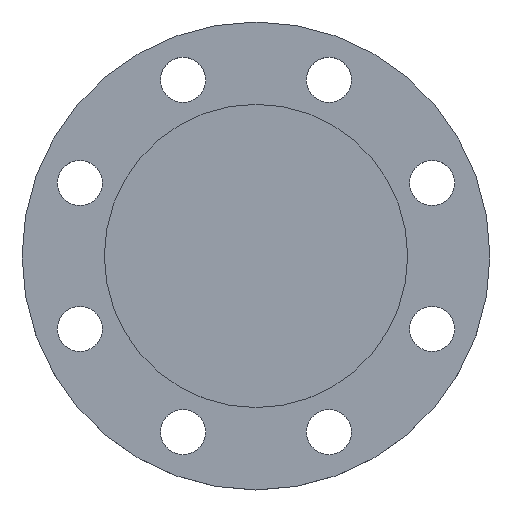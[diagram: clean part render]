
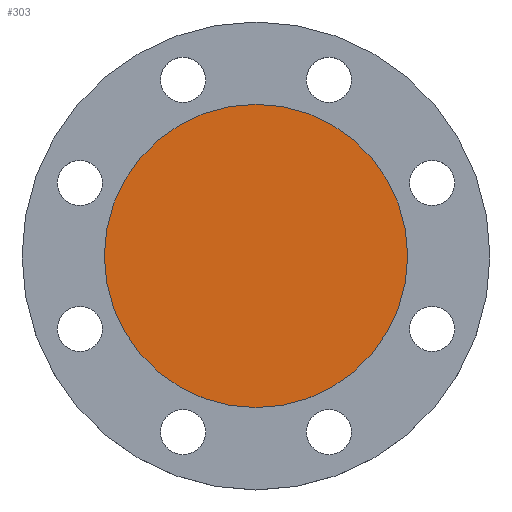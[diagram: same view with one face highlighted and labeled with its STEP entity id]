
A CAD part, top view. The second image highlights one B-rep face of the part: STEP entity #303.
In plain terms, the highlighted planar face has unit normal (0, 0, 1).
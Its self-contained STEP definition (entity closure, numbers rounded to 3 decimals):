
#22 = CARTESIAN_POINT ( 'NONE',  ( -87.5, 0., 0. ) ) ;
#29 = AXIS2_PLACEMENT_3D ( 'NONE', #265, #507, #773 ) ;
#58 = DIRECTION ( 'NONE',  ( 0., 0., -1. ) ) ;
#131 = CARTESIAN_POINT ( 'NONE',  ( 0., 0., 0. ) ) ;
#132 = CARTESIAN_POINT ( 'NONE',  ( 87.5, 0., 0. ) ) ;
#161 = CIRCLE ( 'NONE', #611, 87.5 ) ;
#265 = CARTESIAN_POINT ( 'NONE',  ( 0., 0., 0. ) ) ;
#303 = ADVANCED_FACE ( 'NONE', ( #437 ), #689, .T. ) ;
#305 = DIRECTION ( 'NONE',  ( -1., 0., 0. ) ) ;
#362 = EDGE_CURVE ( 'NONE', #623, #440, #161, .T. ) ;
#382 = CIRCLE ( 'NONE', #29, 87.5 ) ;
#412 = ORIENTED_EDGE ( 'NONE', *, *, #362, .F. ) ;
#437 = FACE_OUTER_BOUND ( 'NONE', #659, .T. ) ;
#440 = VERTEX_POINT ( 'NONE', #132 ) ;
#445 = AXIS2_PLACEMENT_3D ( 'NONE', #131, #483, #745 ) ;
#483 = DIRECTION ( 'NONE',  ( 0., 0., 1. ) ) ;
#507 = DIRECTION ( 'NONE',  ( 0., 0., -1. ) ) ;
#567 = EDGE_CURVE ( 'NONE', #440, #623, #382, .T. ) ;
#611 = AXIS2_PLACEMENT_3D ( 'NONE', #615, #58, #305 ) ;
#615 = CARTESIAN_POINT ( 'NONE',  ( 0., 0., 0. ) ) ;
#623 = VERTEX_POINT ( 'NONE', #22 ) ;
#651 = ORIENTED_EDGE ( 'NONE', *, *, #567, .F. ) ;
#659 = EDGE_LOOP ( 'NONE', ( #412, #651 ) ) ;
#689 = PLANE ( 'NONE',  #445 ) ;
#745 = DIRECTION ( 'NONE',  ( 1., 0., 0. ) ) ;
#773 = DIRECTION ( 'NONE',  ( -1., 0., 0. ) ) ;
